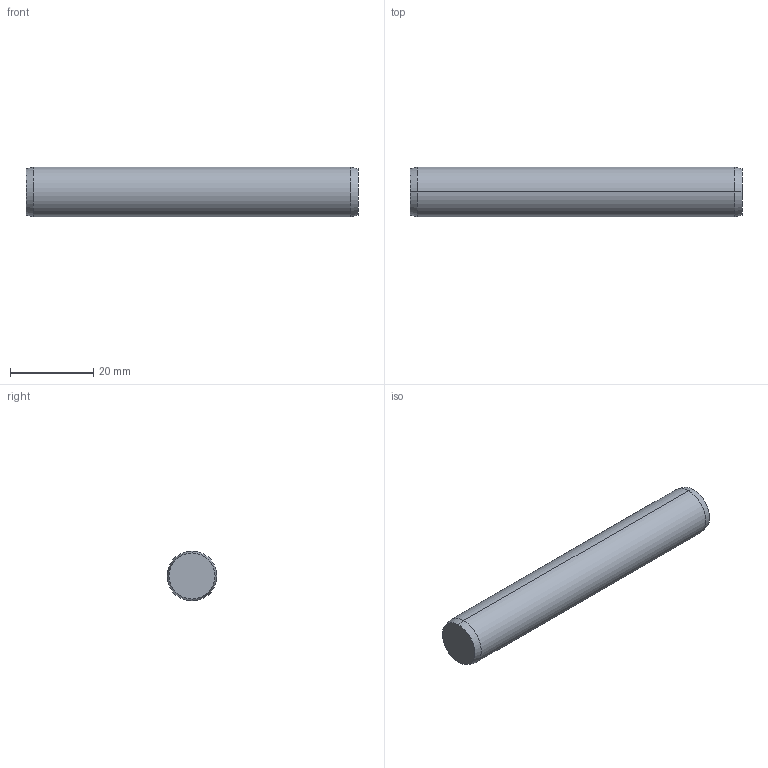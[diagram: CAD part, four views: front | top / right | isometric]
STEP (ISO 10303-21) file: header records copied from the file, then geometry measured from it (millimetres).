
FILE_DESCRIPTION (( 'STEP AP203' ), '1' );
FILE_NAME ('P1206.120-080.step', '2017-06-14T08:40:27', ( 'User' ), ( '' ), 'SwSTEP 2.0', 'SolidWorks 2009', '' );
FILE_SCHEMA (( 'CONFIG_CONTROL_DESIGN' ));
Length unit declared in the file: millimetre
Products named in the file (1): P1206.120-080
Bounding box: 80 x 12 x 12 mm (x, y, z)
Volume: 9019.3 mm3; surface area: 3208.6 mm2
Topology: 1 solids, 1 shells, 8 faces, 14 edges, 8 vertices
Faces by surface type: cone 4, cylinder 2, plane 2
Entity records: 271 total; most frequent: DIRECTION 40, CARTESIAN_POINT 31, ORIENTED_EDGE 28, AXIS2_PLACEMENT_3D 17, EDGE_CURVE 14, ADVANCED_FACE 8, VERTEX_POINT 8, EDGE_LOOP 8
